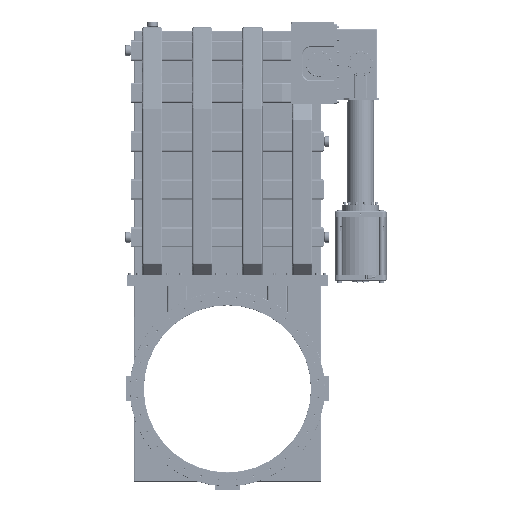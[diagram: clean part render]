
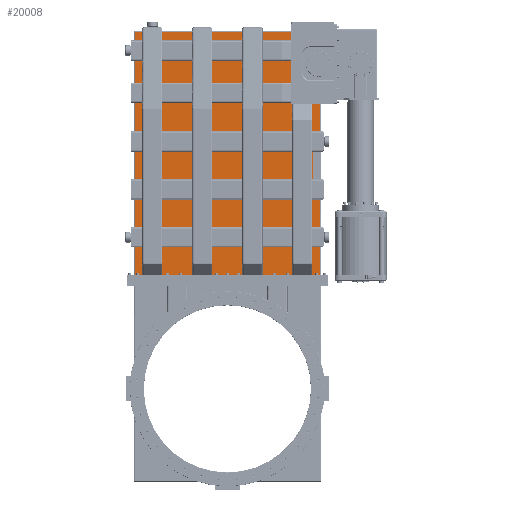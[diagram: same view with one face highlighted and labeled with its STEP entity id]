
A CAD part, top view. The second image highlights one B-rep face of the part: STEP entity #20008.
In plain terms, the highlighted planar face has unit normal (0, 0, 1).
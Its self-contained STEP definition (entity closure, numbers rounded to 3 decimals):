
#16608=CIRCLE('',#60134,55.015);
#20008=ADVANCED_FACE('',(#24020),#22682,.F.);
#22682=PLANE('',#60135);
#24020=FACE_OUTER_BOUND('',#26034,.T.);
#26034=EDGE_LOOP('',(#36183,#36184,#36185,#36186,#36187,#36188));
#29693=LINE('',#75934,#32702);
#29707=LINE('',#75991,#32716);
#29708=LINE('',#75993,#32717);
#29709=LINE('',#75995,#32718);
#29710=LINE('',#75997,#32719);
#32702=VECTOR('',#64339,1.);
#32716=VECTOR('',#64371,1.);
#32717=VECTOR('',#64372,1.);
#32718=VECTOR('',#64373,1.);
#32719=VECTOR('',#64374,1.);
#36183=ORIENTED_EDGE('',*,*,#52737,.T.);
#36184=ORIENTED_EDGE('',*,*,#52738,.T.);
#36185=ORIENTED_EDGE('',*,*,#52739,.T.);
#36186=ORIENTED_EDGE('',*,*,#52740,.T.);
#36187=ORIENTED_EDGE('',*,*,#52741,.F.);
#36188=ORIENTED_EDGE('',*,*,#52718,.T.);
#48330=VERTEX_POINT('',#75933);
#48331=VERTEX_POINT('',#75935);
#48348=VERTEX_POINT('',#75990);
#48349=VERTEX_POINT('',#75992);
#48350=VERTEX_POINT('',#75994);
#48351=VERTEX_POINT('',#75996);
#52718=EDGE_CURVE('',#48331,#48330,#29693,.T.);
#52737=EDGE_CURVE('',#48330,#48348,#16608,.T.);
#52738=EDGE_CURVE('',#48348,#48349,#29707,.T.);
#52739=EDGE_CURVE('',#48349,#48350,#29708,.T.);
#52740=EDGE_CURVE('',#48350,#48351,#29709,.T.);
#52741=EDGE_CURVE('',#48331,#48351,#29710,.T.);
#60134=AXIS2_PLACEMENT_3D('',#75989,#64369,#64370);
#60135=AXIS2_PLACEMENT_3D('',#75998,#64375,#64376);
#64339=DIRECTION('',(0.,1.,0.));
#64369=DIRECTION('',(0.,0.,-1.));
#64370=DIRECTION('',(1.,0.,0.));
#64371=DIRECTION('',(0.,1.,0.));
#64372=DIRECTION('',(-1.,0.,0.));
#64373=DIRECTION('',(0.,-1.,0.));
#64374=DIRECTION('',(-1.,0.,0.));
#64375=DIRECTION('',(0.,0.,-1.));
#64376=DIRECTION('',(-1.,0.,0.));
#75933=CARTESIAN_POINT('',(553.25,1231.881,58.8));
#75934=CARTESIAN_POINT('',(553.25,1485.8,58.8));
#75935=CARTESIAN_POINT('',(553.25,3.8,58.8));
#75989=CARTESIAN_POINT('',(550.,1286.8,58.8));
#75990=CARTESIAN_POINT('',(553.25,1341.719,58.8));
#75991=CARTESIAN_POINT('',(553.25,1485.8,58.8));
#75992=CARTESIAN_POINT('',(553.25,1479.55,58.8));
#75993=CARTESIAN_POINT('',(-559.5,1479.55,58.8));
#75994=CARTESIAN_POINT('',(-553.25,1479.55,58.8));
#75995=CARTESIAN_POINT('',(-553.25,0.,58.8));
#75996=CARTESIAN_POINT('',(-553.25,3.8,58.8));
#75997=CARTESIAN_POINT('',(-559.5,3.8,58.8));
#75998=CARTESIAN_POINT('',(-559.5,1485.8,58.8));
